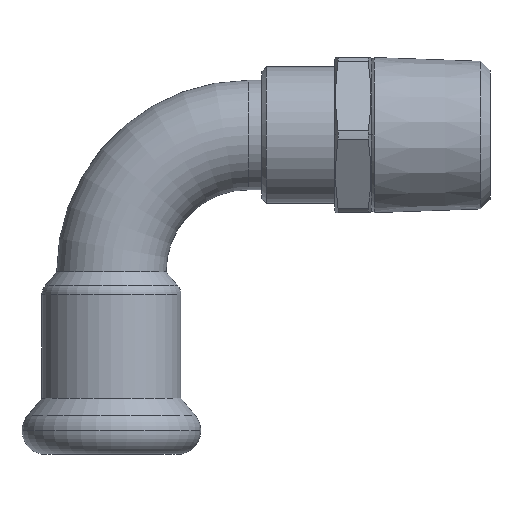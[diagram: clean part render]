
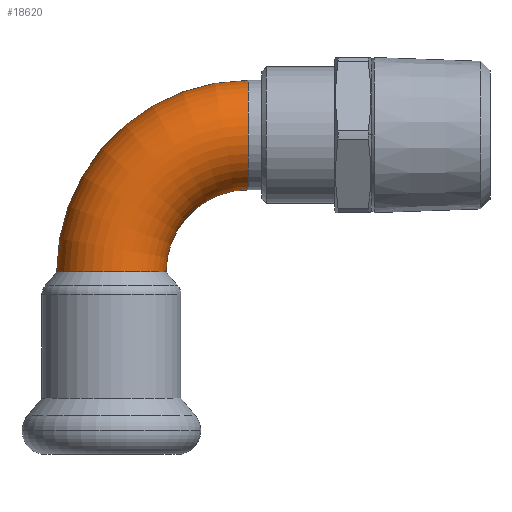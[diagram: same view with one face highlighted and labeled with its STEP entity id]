
A CAD part, top view. The second image highlights one B-rep face of the part: STEP entity #18620.
In plain terms, the highlighted toroidal (fillet/blend) face has major radius 15 mm and minor radius 6 mm.
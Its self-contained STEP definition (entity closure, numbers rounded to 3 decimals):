
#14250=CARTESIAN_POINT('',(-83.071,36.24,
0.));
#14260=DIRECTION('',(0.,0.,1.));
#14270=DIRECTION('',(-1.,0.,0.));
#14280=AXIS2_PLACEMENT_3D('',#14250,#14260,#14270);
#14290=TOROIDAL_SURFACE('',#14280,15.,6.);
#14300=CARTESIAN_POINT('',(-83.071,36.24,
0.));
#14310=DIRECTION('',(0.,0.,1.));
#14320=DIRECTION('',(-1.,0.,0.));
#14330=AXIS2_PLACEMENT_3D('',#14300,#14310,#14320);
#14340=CIRCLE('',#14330,21.);
#14350=CARTESIAN_POINT('',(-104.071,36.24,
0.));
#14360=VERTEX_POINT('',#14350);
#14370=CARTESIAN_POINT('',(-83.071,15.24,
0.));
#14380=VERTEX_POINT('',#14370);
#14390=EDGE_CURVE('',#14360,#14380,#14340,.T.);
#14460=CARTESIAN_POINT('',(-92.071,36.24,0.));
#14470=VERTEX_POINT('',#14460);
#14500=CARTESIAN_POINT('',(-83.071,36.24,
0.));
#14510=DIRECTION('',(0.,0.,1.));
#14520=DIRECTION('',(-1.,0.,0.));
#14530=AXIS2_PLACEMENT_3D('',#14500,#14510,#14520);
#14540=CIRCLE('',#14530,9.);
#14550=CARTESIAN_POINT('',(-83.071,27.24,
0.));
#14560=VERTEX_POINT('',#14550);
#14570=EDGE_CURVE('',#14470,#14560,#14540,.T.);
#14590=CARTESIAN_POINT('',(-83.071,21.24,
0.));
#14600=DIRECTION('',(-1.,0.,0.));
#14610=DIRECTION('',(0.,1.,0.));
#14620=AXIS2_PLACEMENT_3D('',#14590,#14600,#14610);
#14630=CIRCLE('',#14620,6.);
#14800=EDGE_CURVE('',#14560,#14380,#14630,.T.);
#18500=CARTESIAN_POINT('',(-98.071,36.24,0.));
#18510=DIRECTION('',(0.,-1.,0.));
#18520=DIRECTION('',(1.,0.,0.));
#18530=AXIS2_PLACEMENT_3D('',#18500,#18510,#18520);
#18540=CIRCLE('',#18530,6.);
#18550=EDGE_CURVE('',#14360,#14470,#18540,.T.);
#18560=ORIENTED_EDGE('',*,*,#18550,.T.);
#18570=ORIENTED_EDGE('',*,*,#14390,.F.);
#18580=ORIENTED_EDGE('',*,*,#14800,.T.);
#18590=ORIENTED_EDGE('',*,*,#14570,.T.);
#18600=EDGE_LOOP('',(#18590,#18580,#18570,#18560));
#18610=FACE_OUTER_BOUND('',#18600,.T.);
#18620=ADVANCED_FACE('',(#18610),#14290,.T.);
